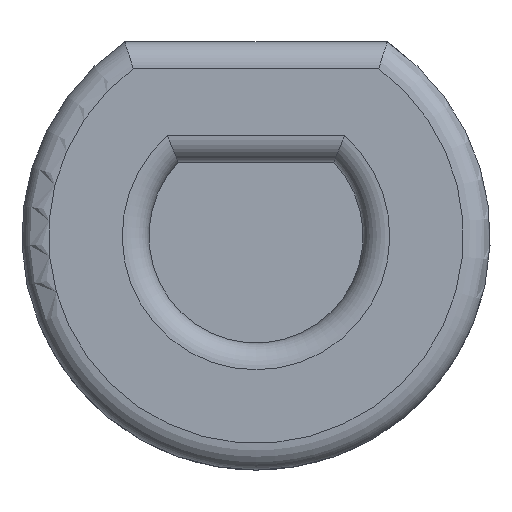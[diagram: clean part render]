
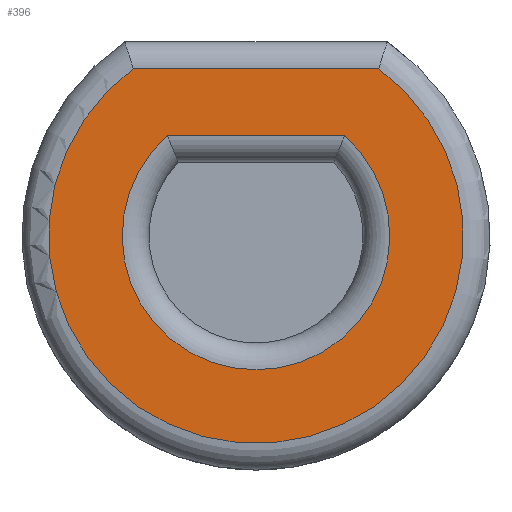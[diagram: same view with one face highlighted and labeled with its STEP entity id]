
A CAD part, front view. The second image highlights one B-rep face of the part: STEP entity #396.
In plain terms, the highlighted planar face has unit normal (0, -1, 0).
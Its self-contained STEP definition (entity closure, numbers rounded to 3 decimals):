
#89 = TOROIDAL_SURFACE('',#90,3.1,0.4);
#90 = AXIS2_PLACEMENT_3D('',#91,#92,#93);
#91 = CARTESIAN_POINT('',(0.,6.02,0.));
#92 = DIRECTION('',(0.,-1.,0.));
#93 = DIRECTION('',(0.56,0.,0.829));
#187 = CYLINDRICAL_SURFACE('',#188,0.4);
#188 = AXIS2_PLACEMENT_3D('',#189,#190,#191);
#189 = CARTESIAN_POINT('',(1.96,6.02,2.5));
#190 = DIRECTION('',(-1.,0.,0.));
#191 = DIRECTION('',(0.,0.,1.));
#203 = VERTEX_POINT('',#204);
#204 = CARTESIAN_POINT('',(1.833,5.62,2.5));
#254 = VERTEX_POINT('',#255);
#255 = CARTESIAN_POINT('',(-1.833,5.62,2.5));
#303 = EDGE_CURVE('',#203,#254,#304,.T.);
#304 = SURFACE_CURVE('',#305,(#310,#317),.PCURVE_S1.);
#305 = CIRCLE('',#306,3.1);
#306 = AXIS2_PLACEMENT_3D('',#307,#308,#309);
#307 = CARTESIAN_POINT('',(0.,5.62,0.));
#308 = DIRECTION('',(0.,1.,0.));
#309 = DIRECTION('',(0.56,0.,0.829));
#310 = PCURVE('',#89,#311);
#311 = DEFINITIONAL_REPRESENTATION('',(#312),#316);
#312 = LINE('',#313,#314);
#313 = CARTESIAN_POINT('',(-0.,1.571));
#314 = VECTOR('',#315,1.);
#315 = DIRECTION('',(-1.,0.));
#316 = ( GEOMETRIC_REPRESENTATION_CONTEXT(2) 
PARAMETRIC_REPRESENTATION_CONTEXT() REPRESENTATION_CONTEXT('2D SPACE',''
  ) );
#317 = PCURVE('',#318,#323);
#318 = PLANE('',#319);
#319 = AXIS2_PLACEMENT_3D('',#320,#321,#322);
#320 = CARTESIAN_POINT('',(0.,5.62,0.));
#321 = DIRECTION('',(0.,-1.,0.));
#322 = DIRECTION('',(1.,0.,0.));
#323 = DEFINITIONAL_REPRESENTATION('',(#324),#332);
#324 = ( BOUNDED_CURVE() B_SPLINE_CURVE(2,(#325,#326,#327,#328,#329,#330
,#331),.UNSPECIFIED.,.T.,.F.) B_SPLINE_CURVE_WITH_KNOTS((1,2,2,2,2,1),(
    -2.094,0.,2.094,4.189,6.283,
8.378),.UNSPECIFIED.) CURVE() GEOMETRIC_REPRESENTATION_ITEM() 
RATIONAL_B_SPLINE_CURVE((1.,0.5,1.,0.5,1.,0.5,1.)) REPRESENTATION_ITEM(
  '') );
#325 = CARTESIAN_POINT('',(1.736,2.569));
#326 = CARTESIAN_POINT('',(6.185,-0.438));
#327 = CARTESIAN_POINT('',(1.357,-2.787));
#328 = CARTESIAN_POINT('',(-3.471,-5.137));
#329 = CARTESIAN_POINT('',(-3.092,0.219));
#330 = CARTESIAN_POINT('',(-2.713,5.575));
#331 = CARTESIAN_POINT('',(1.736,2.569));
#332 = ( GEOMETRIC_REPRESENTATION_CONTEXT(2) 
PARAMETRIC_REPRESENTATION_CONTEXT() REPRESENTATION_CONTEXT('2D SPACE',''
  ) );
#374 = EDGE_CURVE('',#203,#254,#375,.T.);
#375 = SURFACE_CURVE('',#376,(#380,#387),.PCURVE_S1.);
#376 = LINE('',#377,#378);
#377 = CARTESIAN_POINT('',(1.96,5.62,2.5));
#378 = VECTOR('',#379,1.);
#379 = DIRECTION('',(-1.,0.,0.));
#380 = PCURVE('',#187,#381);
#381 = DEFINITIONAL_REPRESENTATION('',(#382),#386);
#382 = LINE('',#383,#384);
#383 = CARTESIAN_POINT('',(-1.571,0.));
#384 = VECTOR('',#385,1.);
#385 = DIRECTION('',(-0.,1.));
#386 = ( GEOMETRIC_REPRESENTATION_CONTEXT(2) 
PARAMETRIC_REPRESENTATION_CONTEXT() REPRESENTATION_CONTEXT('2D SPACE',''
  ) );
#387 = PCURVE('',#318,#388);
#388 = DEFINITIONAL_REPRESENTATION('',(#389),#393);
#389 = LINE('',#390,#391);
#390 = CARTESIAN_POINT('',(1.96,2.5));
#391 = VECTOR('',#392,1.);
#392 = DIRECTION('',(-1.,0.));
#393 = ( GEOMETRIC_REPRESENTATION_CONTEXT(2) 
PARAMETRIC_REPRESENTATION_CONTEXT() REPRESENTATION_CONTEXT('2D SPACE',''
  ) );
#396 = ADVANCED_FACE('',(#397,#401),#318,.T.);
#397 = FACE_BOUND('',#398,.T.);
#398 = EDGE_LOOP('',(#399,#400));
#399 = ORIENTED_EDGE('',*,*,#303,.F.);
#400 = ORIENTED_EDGE('',*,*,#374,.T.);
#401 = FACE_BOUND('',#402,.T.);
#402 = EDGE_LOOP('',(#403,#433));
#403 = ORIENTED_EDGE('',*,*,#404,.F.);
#404 = EDGE_CURVE('',#405,#407,#409,.T.);
#405 = VERTEX_POINT('',#406);
#406 = CARTESIAN_POINT('',(1.323,5.62,1.5));
#407 = VERTEX_POINT('',#408);
#408 = CARTESIAN_POINT('',(-1.323,5.62,1.5));
#409 = SURFACE_CURVE('',#410,(#414,#421),.PCURVE_S1.);
#410 = LINE('',#411,#412);
#411 = CARTESIAN_POINT('',(1.162,5.62,1.5));
#412 = VECTOR('',#413,1.);
#413 = DIRECTION('',(-1.,0.,0.));
#414 = PCURVE('',#318,#415);
#415 = DEFINITIONAL_REPRESENTATION('',(#416),#420);
#416 = LINE('',#417,#418);
#417 = CARTESIAN_POINT('',(1.162,1.5));
#418 = VECTOR('',#419,1.);
#419 = DIRECTION('',(-1.,0.));
#420 = ( GEOMETRIC_REPRESENTATION_CONTEXT(2) 
PARAMETRIC_REPRESENTATION_CONTEXT() REPRESENTATION_CONTEXT('2D SPACE',''
  ) );
#421 = PCURVE('',#422,#427);
#422 = CYLINDRICAL_SURFACE('',#423,0.4);
#423 = AXIS2_PLACEMENT_3D('',#424,#425,#426);
#424 = CARTESIAN_POINT('',(1.162,6.02,1.5));
#425 = DIRECTION('',(-1.,0.,0.));
#426 = DIRECTION('',(0.,-1.,0.));
#427 = DEFINITIONAL_REPRESENTATION('',(#428),#432);
#428 = LINE('',#429,#430);
#429 = CARTESIAN_POINT('',(-0.,0.));
#430 = VECTOR('',#431,1.);
#431 = DIRECTION('',(-0.,1.));
#432 = ( GEOMETRIC_REPRESENTATION_CONTEXT(2) 
PARAMETRIC_REPRESENTATION_CONTEXT() REPRESENTATION_CONTEXT('2D SPACE',''
  ) );
#433 = ORIENTED_EDGE('',*,*,#434,.T.);
#434 = EDGE_CURVE('',#405,#407,#435,.T.);
#435 = SURFACE_CURVE('',#436,(#441,#452),.PCURVE_S1.);
#436 = CIRCLE('',#437,2.);
#437 = AXIS2_PLACEMENT_3D('',#438,#439,#440);
#438 = CARTESIAN_POINT('',(0.,5.62,0.));
#439 = DIRECTION('',(0.,1.,0.));
#440 = DIRECTION('',(0.726,0.,0.688));
#441 = PCURVE('',#318,#442);
#442 = DEFINITIONAL_REPRESENTATION('',(#443),#451);
#443 = ( BOUNDED_CURVE() B_SPLINE_CURVE(2,(#444,#445,#446,#447,#448,#449
,#450),.UNSPECIFIED.,.T.,.F.) B_SPLINE_CURVE_WITH_KNOTS((1,2,2,2,2,1),(
    -2.094,0.,2.094,4.189,6.283,
8.378),.UNSPECIFIED.) CURVE() GEOMETRIC_REPRESENTATION_ITEM() 
RATIONAL_B_SPLINE_CURVE((1.,0.5,1.,0.5,1.,0.5,1.)) REPRESENTATION_ITEM(
  '') );
#444 = CARTESIAN_POINT('',(1.452,1.375));
#445 = CARTESIAN_POINT('',(3.834,-1.141));
#446 = CARTESIAN_POINT('',(0.465,-1.945));
#447 = CARTESIAN_POINT('',(-2.905,-2.75));
#448 = CARTESIAN_POINT('',(-1.917,0.57));
#449 = CARTESIAN_POINT('',(-0.929,3.891));
#450 = CARTESIAN_POINT('',(1.452,1.375));
#451 = ( GEOMETRIC_REPRESENTATION_CONTEXT(2) 
PARAMETRIC_REPRESENTATION_CONTEXT() REPRESENTATION_CONTEXT('2D SPACE',''
  ) );
#452 = PCURVE('',#453,#458);
#453 = TOROIDAL_SURFACE('',#454,2.,0.4);
#454 = AXIS2_PLACEMENT_3D('',#455,#456,#457);
#455 = CARTESIAN_POINT('',(0.,6.02,0.));
#456 = DIRECTION('',(0.,-1.,0.));
#457 = DIRECTION('',(0.726,0.,0.688));
#458 = DEFINITIONAL_REPRESENTATION('',(#459),#463);
#459 = LINE('',#460,#461);
#460 = CARTESIAN_POINT('',(-0.,1.571));
#461 = VECTOR('',#462,1.);
#462 = DIRECTION('',(-1.,0.));
#463 = ( GEOMETRIC_REPRESENTATION_CONTEXT(2) 
PARAMETRIC_REPRESENTATION_CONTEXT() REPRESENTATION_CONTEXT('2D SPACE',''
  ) );
